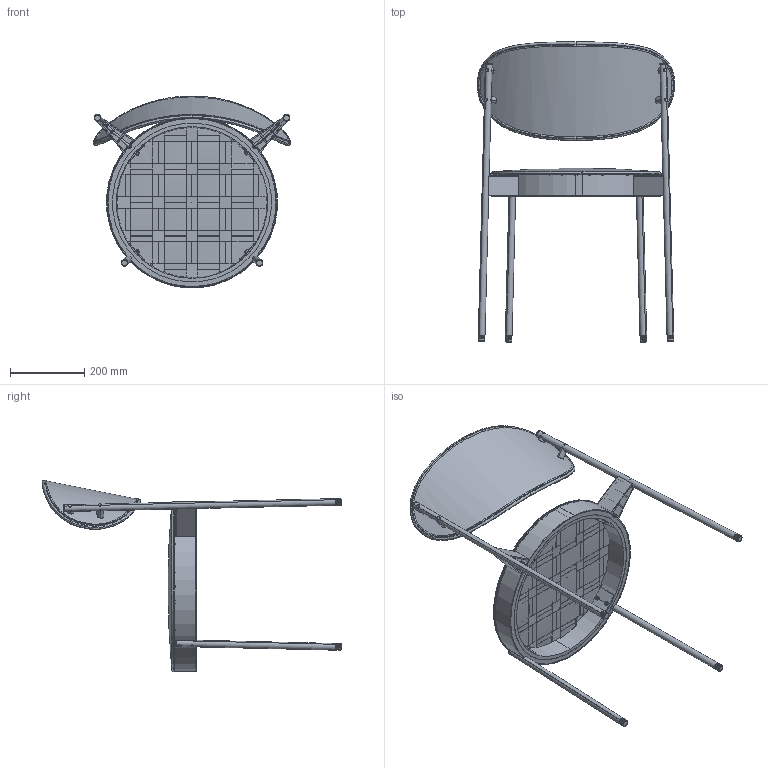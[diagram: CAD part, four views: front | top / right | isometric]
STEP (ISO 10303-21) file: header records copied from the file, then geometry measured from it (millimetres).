
FILE_DESCRIPTION (( 'STEP AP214' ), '1' );
FILE_NAME ('430 dining chair.STEP', '2024-04-03T11:13:51', ( '' ), ( '' ), 'SwSTEP 2.0', 'SolidWorks 2022', '' );
FILE_SCHEMA (( 'AUTOMOTIVE_DESIGN' ));
Length unit declared in the file: millimetre
Products named in the file (16): Plate 3mm 60 x 50 R200 with 2 x Ø6,4; Vepan Serie 430 - Upholstery; M6 x 35 Socket head cap screw; Verpan Serie 430 Chair_Sæderamme til Serie430_Vink; Bolt cover; Verpan Serie 430 Chair_FORben V2_2; Verpan Serie 430 Chair_Afstandsstykke ben og ryg_small; M6 x 130 Socket head cap screw; Verpan Serie 430 Chair_Afstandsklods_extruderet_med nedsænket bundplade; 430 dining chair; Verpan Serie 430 Chair_MirrorBen bagtil_til skrå sæderamme_20.05.15; Verpan Serie 430 Chair_rygplade_gentegnet_TONI - Copy; Felt insert ø18; Verpan Serie 430 Chair_Ben bagtil_til skrå sæderamme_20.05.15; Verpan Serie 430 - Weaved mesh; Verpan Serie 430 Chair_Afstandsstykke ben og ryg Ø18_large
Assembly tree (34 placements, depth 2):
  430 dining chair
    Verpan Serie 430 Chair_Sæderamme til Serie430_Vink
    Verpan Serie 430 Chair_FORben V2_2  x2
    Verpan Serie 430 Chair_MirrorBen bagtil_til skrå sæderamme_20.05.15
    Verpan Serie 430 Chair_Afstandsklods_extruderet_med nedsænket bundplade  x2
    Verpan Serie 430 Chair_Ben bagtil_til skrå sæderamme_20.05.15
    Plate 3mm 60 x 50 R200 with 2 x Ø6,4  x4
    M6 x 130 Socket head cap screw  x4
    M6 x 35 Socket head cap screw  x4
    Verpan Serie 430 Chair_Afstandsstykke ben og ryg Ø18_large  x2
    Verpan Serie 430 Chair_Afstandsstykke ben og ryg_small  x2
    Verpan Serie 430 - Weaved mesh
    Felt insert ø18  x4
    Vepan Serie 430 - Upholstery
    Verpan Serie 430 Chair_rygplade_gentegnet_TONI - Copy
    Bolt cover  x4
Bounding box: 530 x 806.36 x 515.44 mm (x, y, z)
Volume: 3879590.7 mm3; surface area: 1755239.3 mm2
Topology: 45 solids, 45 shells, 1296 faces, 3431 edges, 2220 vertices
Faces by surface type: cylinder 866, plane 230, torus 114, bspline 54, cone 30, sphere 2
Entity records: 35385 total; most frequent: CARTESIAN_POINT 21359, ORIENTED_EDGE 3030, DIRECTION 2503, EDGE_CURVE 1515, AXIS2_PLACEMENT_3D 996, VERTEX_POINT 984, EDGE_LOOP 627, ADVANCED_FACE 566
